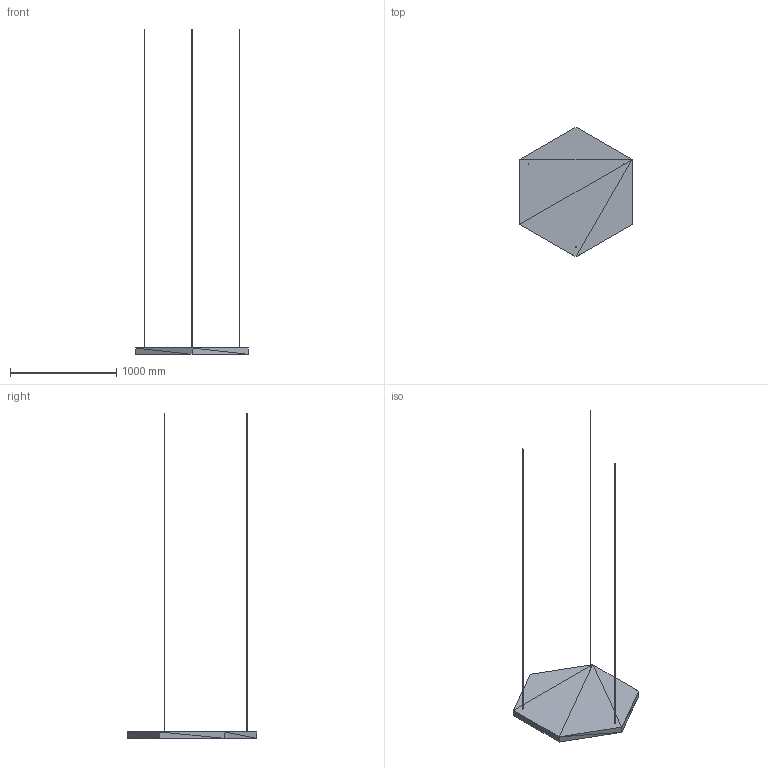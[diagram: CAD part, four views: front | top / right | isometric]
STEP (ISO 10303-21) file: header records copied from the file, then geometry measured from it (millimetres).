
FILE_DESCRIPTION(('ISINAC STEP AP214'),'2;1');
FILE_NAME('ISINAC_HEX.610_60mm_COLGADO','2026-05-03T10:49:19',('ISINAC'),('www.isinac.com'),'ISINAC BIM Generator 1.0','','');
FILE_SCHEMA(('AUTOMOTIVE_DESIGN'));
Length unit declared in the file: millimetre
Products named in the file (1): ISINAC_HEX.610_60mm_COLGADO
Bounding box: 1056.55 x 1220 x 3060 mm (x, y, z)
Surface area: 2234122.2 mm2 (no closed solid volume)
Topology: 0 solids, 80 shells, 80 faces, 240 edges, 240 vertices
Faces by surface type: plane 80
Entity records: 893 total; most frequent: CARTESIAN_POINT 320, DIRECTION 160, POLY_LOOP 80, FACE_OUTER_BOUND 80, AXIS2_PLACEMENT_3D 80, PLANE 80, FACE_SURFACE 80, CLOSED_SHELL 1
